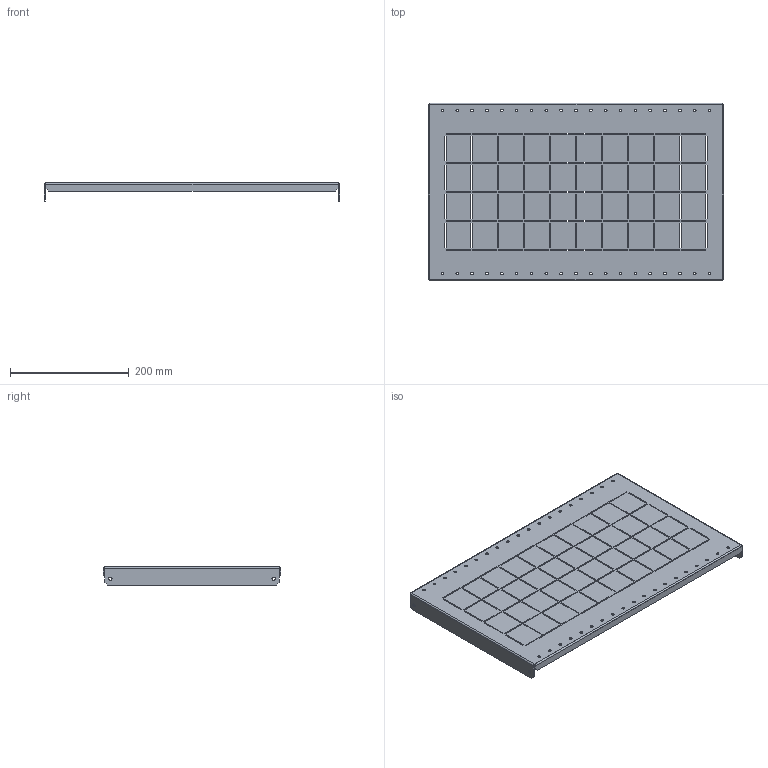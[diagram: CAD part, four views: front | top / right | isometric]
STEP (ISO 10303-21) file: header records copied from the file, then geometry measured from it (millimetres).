
FILE_DESCRIPTION (( 'STEP AP203' ), '1' );
FILE_NAME ('MA1.800.060603.04.01 Ïàíåëè áîêîâûå äëÿ ñåêöèîíèðîâàíèÿ Â300 Ã600 ìì.STEP', '2024-12-02T13:57:51', ( '' ), ( '' ), 'SwSTEP 2.0', 'SolidWorks 2021', '' );
FILE_SCHEMA (( 'CONFIG_CONTROL_DESIGN' ));
Length unit declared in the file: millimetre
Products named in the file (1): MA1.800.060603.04.01 Ïàíåëè áîêîâûå äëÿ ñåêöèîíèðîâàíèÿ Â300 Ã600 ìì
Bounding box: 497 x 299 x 31 mm (x, y, z)
Volume: 252803.8 mm3; surface area: 352703.1 mm2
Topology: 1 solids, 1 shells, 464 faces, 1354 edges, 892 vertices
Faces by surface type: plane 414, cylinder 50
Full cylindrical faces by diameter (mm): 4.5 x38, 5.5 x4
Entity records: 15493 total; most frequent: CARTESIAN_POINT 2669, ORIENTED_EDGE 2624, DIRECTION 2342, EDGE_CURVE 1312, VECTOR 1212, LINE 1212, VERTEX_POINT 892, EDGE_LOOP 778
